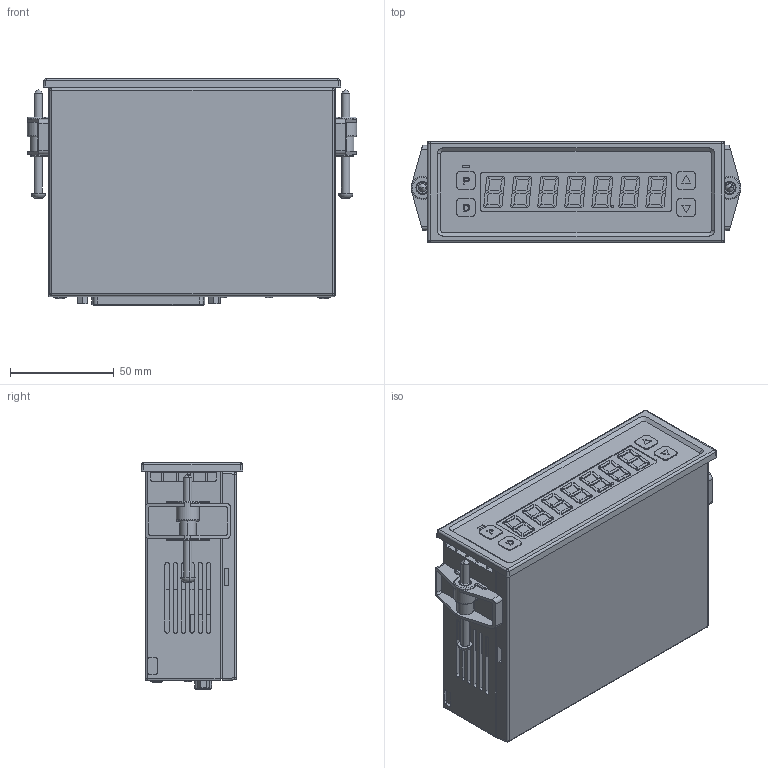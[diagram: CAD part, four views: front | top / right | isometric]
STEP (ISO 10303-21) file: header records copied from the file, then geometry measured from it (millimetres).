
FILE_DESCRIPTION (( 'STEP AP203' ), '1' );
FILE_NAME ('KPS-パラレル出力_Assem2.STEP', '2024-08-19T04:41:49', ( '' ), ( '' ), 'SwSTEP 2.0', 'SolidWorks 2023', '' );
FILE_SCHEMA (( 'CONFIG_CONTROL_DESIGN' ));
Length unit declared in the file: millimetre
Products named in the file (13): カウンター取付金具Assem; D SUB 37P female - FL37S7-K121 (FCT)_裏消し; KPS-パラレル出力_Part1; バインド頭 M2.5 X6 MM; M4x6.5インサートナット; SCREW M4 X50 MM; オムロンXW4A-03C1-H1; D-Subコネクター取付スペーサー; バインド頭Tap M3 X10 MM; KPS-パラレル出力_Assem2; 8P_Pin; カウンタ_取付金具本体; KPS-パラレル出力_Assem1
Assembly tree (17 placements, depth 3):
  KPS-パラレル出力_Assem2
    KPS-パラレル出力_Assem1
      KPS-パラレル出力_Part1
      8P_Pin
      オムロンXW4A-03C1-H1
      バインド頭 M2.5 X6 MM  x2
      バインド頭Tap M3 X10 MM  x2
      D SUB 37P female - FL37S7-K121 (FCT)_裏消し
      D-Subコネクター取付スペーサー  x2
    SCREW M4 X50 MM  x2
    カウンター取付金具Assem  x2
      カウンタ_取付金具本体
      M4x6.5インサートナット
Bounding box: 158.6 x 49 x 109 mm (x, y, z)
Volume: 564582.3 mm3; surface area: 124765.5 mm2
Topology: 18 solids, 18 shells, 2288 faces, 5882 edges, 3840 vertices
Faces by surface type: plane 1296, cylinder 415, bspline 368, cone 129, torus 54, sphere 26
Entity records: 67455 total; most frequent: CARTESIAN_POINT 20752, ORIENTED_EDGE 9882, DIRECTION 8394, EDGE_CURVE 4941, VERTEX_POINT 3226, VECTOR 3222, LINE 3222, AXIS2_PLACEMENT_3D 2586
